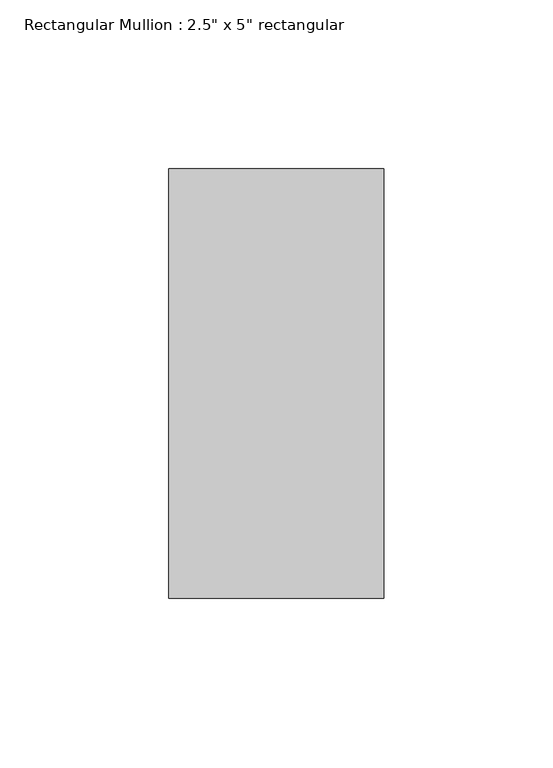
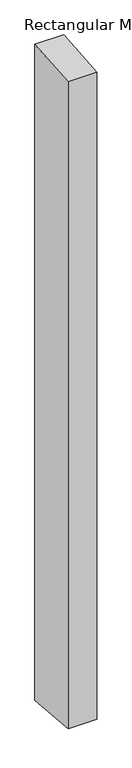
"""IFC4 building model written with IfcOpenShell, lengths in millimetres: member geometry."""

from ifc_helpers import new_model, si_unit, frame, origin, place, context, project, spatial, polyline, outline, extrude, source, transform, mapped, element, save


def member_1612663b(model_context):
    return source(origin(), model_context, "Body", "SweptSolid", [
        extrude(outline(polyline([(-63.5, -5.3101368), (63.5, 5.3101368), (63.5, -1529.3101368), (-63.5, -1518.6898632), (-63.5, -5.3101368)])), frame((-31.75, 0.0, 0.0), z_axis=(1.0, 0.0, 0.0), x_axis=(0.0, 1.0, 0.0)), (0.0, 0.0, 1.0), 63.5),
    ])


if __name__ == "__main__":
    model = new_model("IFC4")
    model_context = context("Model", 3, world=origin())
    ifc_project = project(units=[si_unit("LENGTHUNIT", "METRE", prefix="MILLI")], contexts=[model_context])
    site = spatial("IfcSite", under=ifc_project)
    building = spatial("IfcBuilding", under=site)
    placement = place(None, origin())
    member_shape = member_1612663b(model_context)
    element("IfcMember", 1, ObjectType="Rectangular Mullion : 2.5\" x 5\" rectangular", at=placement, inside=building, context=model_context, shape_type="MappedRepresentation", body=[
        mapped(member_shape, transform((0.0, 0.0, 0.0), x_axis=(1.0, 0.0, 0.0), y_axis=(0.0, 1.0, 0.0), z_axis=(0.0, 0.0, 1.0))),
    ])
    save(model, "model.ifc")
